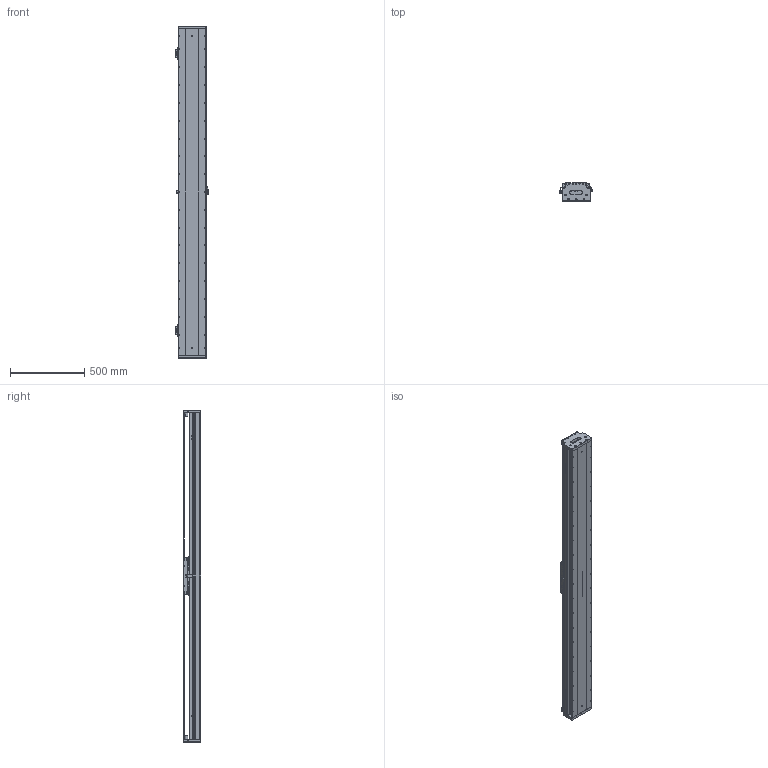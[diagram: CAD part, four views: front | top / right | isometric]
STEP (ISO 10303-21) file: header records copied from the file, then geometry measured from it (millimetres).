
FILE_DESCRIPTION (( 'STEP AP203' ), '1' );
FILE_NAME ('DKW188-C3-W090(T1860-L005-0.2).STEP', '2021-09-14T05:50:02', ( '微软用户' ), ( '微软中国' ), 'SwSTEP 2.0', 'SolidWorks 2018', '' );
FILE_SCHEMA (( 'CONFIG_CONTROL_DESIGN' ));
Length unit declared in the file: millimetre
Products named in the file (25): 嫖萇羲壽蚾饜极A; 11899-0001-006-00 嶺輸菜輸; SSR25XW1UUC1; DKW-SG-GYP-H-00 嫖萇覜茼え; 砎蝶猾沭; CKMA01-W090-TRLxxx; DKW168-RU-DTJ-00 RU2黍杅芛盓殤; 11899-0001-002-00 詩湍裔啣; 11500-0001-010-00 賑怢啣; RUS嫖掑喜; DKW188 单轴模组-拉钢带组件; CKM03-W090-C1C2-TP-0.2 珨极萇儂; Ru2; DKW168-HYB-00 賑輸揤啣; 11899-0001-003-00 傷啣; RUS嫖掑郪璃; pm-y65; DKW168-HXJ-00 遣喳砎蝶; DKW188-C3-W090(T1860-L005-0.2); 10980-0001-003-00 嫖萇羲壽嘐隅釱; 11899-0001-004-00 詩湍嶺輸; 11899-0001-001-00 菁釱; 嫖萇羲壽蚾饜极; 11899-0001-005-00 詩湍揤輸; SSR25-DG
Assembly tree (40 placements, depth 3):
  DKW188-C3-W090(T1860-L005-0.2)
    11899-0001-001-00 菁釱
    SSR25-DG  x2
    SSR25XW1UUC1  x4
    CKMA01-W090-TRLxxx
    11500-0001-010-00 賑怢啣
    CKM03-W090-C1C2-TP-0.2 珨极萇儂
    DKW188 单轴模组-拉钢带组件
      11899-0001-003-00 傷啣  x2
      DKW168-HXJ-00 遣喳砎蝶  x4
      11899-0001-004-00 詩湍嶺輸  x2
      11899-0001-005-00 詩湍揤輸  x2
      11899-0001-006-00 嶺輸菜輸  x2
      砎蝶猾沭  x2
      11899-0001-002-00 詩湍裔啣
    DKW168-HYB-00 賑輸揤啣  x2
    嫖萇羲壽蚾饜极
      pm-y65  x2
      10980-0001-003-00 嫖萇羲壽嘐隅釱
    嫖萇羲壽蚾饜极A
      pm-y65
      10980-0001-003-00 嫖萇羲壽嘐隅釱
    DKW-SG-GYP-H-00 嫖萇覜茼え
    DKW168-RU-DTJ-00 RU2黍杅芛盓殤
    RUS嫖掑郪璃
      RUS嫖掑喜
      Ru2
Bounding box: 221.6 x 120 x 2236 mm (x, y, z)
Volume: 17731899.6 mm3; surface area: 4599885.5 mm2
Topology: 39 solids, 88 shells, 4516 faces, 11739 edges, 7452 vertices
Faces by surface type: plane 2127, cylinder 1624, cone 490, bspline 275
Entity records: 118762 total; most frequent: CARTESIAN_POINT 40155, ORIENTED_EDGE 15607, DIRECTION 15212, EDGE_CURVE 7844, AXIS2_PLACEMENT_3D 5237, VERTEX_POINT 5133, LINE 4738, VECTOR 4738
